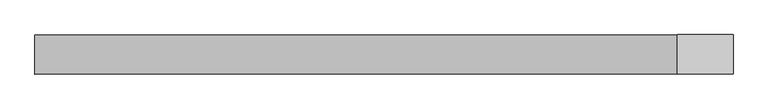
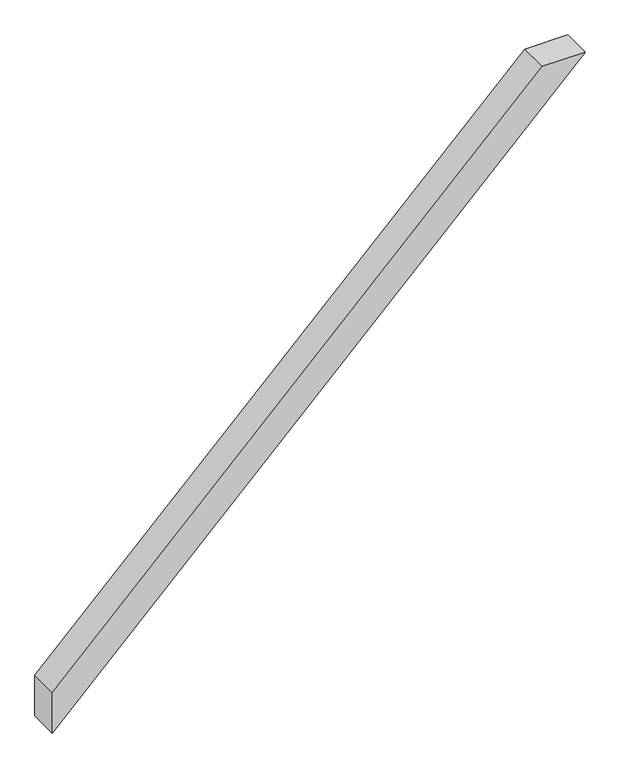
"""IFC4 building model written with IfcOpenShell, lengths in millimetres: proxy geometry, Modelos genéricos 119 : Modelos genéricos 23."""

from ifc_helpers import new_model, si_unit, frame, origin, place, context, project, spatial, polyline, outline, extrude, source, transform, mapped, element, save


def generic_models_e9d169d2(model_context):
    return source(origin(), model_context, "Body", "SweptSolid", [
        extrude(outline(polyline([(4220.0, 6693.2371907), (4220.0, 6608.384377), (3244.8528137, 5633.2371907), (3160.0, 5633.2371907), (4220.0, 6693.2371907)])), frame((0.0, 1918.6238165, 0.0), z_axis=(0.0, 1.0, 0.0), x_axis=(0.0, 0.0, 1.0)), (0.0, 0.0, 1.0), 60.0),
    ])


if __name__ == "__main__":
    model = new_model("IFC4")
    model_context = context("Model", 3, world=origin())
    ifc_project = project(units=[si_unit("LENGTHUNIT", "METRE", prefix="MILLI")], contexts=[model_context])
    site = spatial("IfcSite", under=ifc_project)
    building = spatial("IfcBuilding", under=site)
    placement = place(None, origin())
    generic_models_shape = generic_models_e9d169d2(model_context)
    element("IfcBuildingElementProxy", 1, Name="Modelos genéricos 119 : Modelos genéricos 23", ObjectType="Modelos genéricos 119 : Modelos genéricos 23", at=placement, inside=building, context=model_context, shape_type="MappedRepresentation", body=[
        mapped(generic_models_shape, transform((0.0, 0.0, 0.0), x_axis=(1.0, 0.0, 0.0), y_axis=(0.0, 1.0, 0.0), z_axis=(0.0, 0.0, 1.0))),
    ])
    save(model, "model.ifc")
